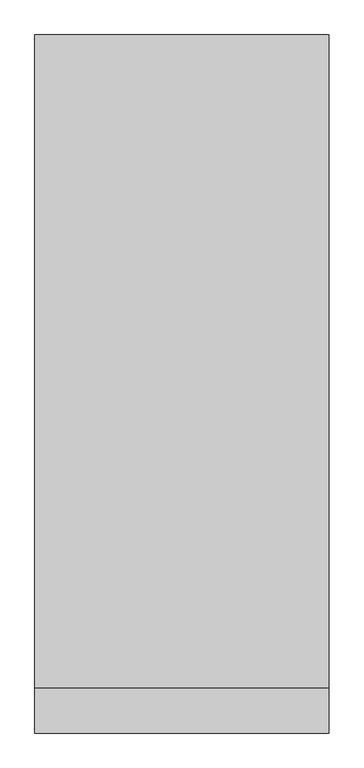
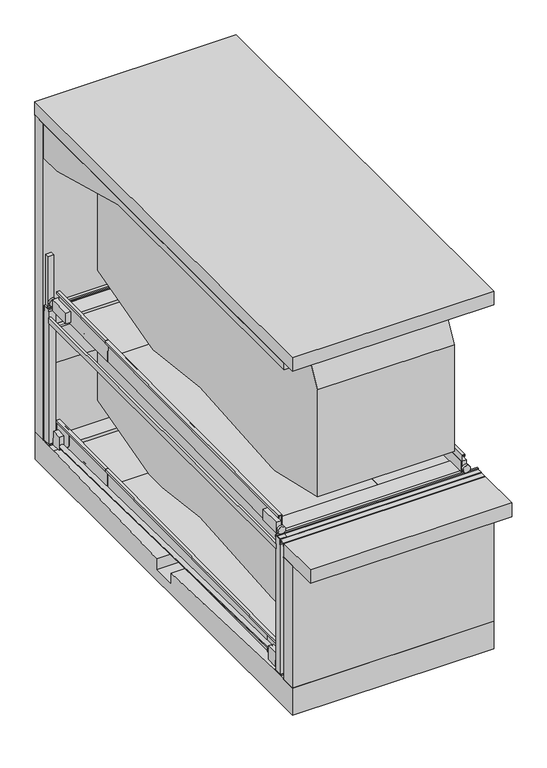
"""IFC4 building model written with IfcOpenShell, lengths in millimetres: proxy geometry, TrendVario_6100 : TrendVario_6100."""

from ifc_helpers import new_model, si_unit, point, frame, frame_2d, origin, place, context, project, spatial, polyline, circle_curve, trimmed, segment, composite_curve, outline, extrude, faceted_brep, source, transform, mapped, element, save
from ifc_brep_helpers import plane_surface, cylinder_surface, advanced_brep


def generic_models_0f1672eb(model_context):
    return source(origin(), model_context, "Body", "SolidModel", [
        extrude(outline(polyline([(0.0, -1500.0), (0.0, 0.0), (1170.0, 0.0), (1170.0, -1500.0), (0.0, -1500.0)])), frame((100.0, 4411.8759587, 12.9805913), z_axis=(0.0, -0.008726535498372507, 0.9999619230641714), x_axis=(0.0, 0.9999619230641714, 0.008726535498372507)), (0.0, 0.0, 1.0), 8.0),
        extrude(outline(polyline([(5343.3866911, 73.1117424), (5581.3776288, 75.1886579), (5581.7615964, 31.1903332), (5578.7617106, 31.1641536), (5578.4039226, 72.1625925), (5346.4127565, 70.1380362), (5346.7705444, 29.1395974), (5343.7706587, 29.1134178), (5343.3866911, 73.1117424)])), frame((100.0, 0.0, 0.0), z_axis=(1.0, 0.0, 0.0), x_axis=(0.0, 1.0, 0.0)), (0.0, 0.0, 1.0), 1500.0),
        extrude(outline(polyline([(320.0, 0.0), (320.0, -43.0), (290.0, -43.0), (290.0, -40.0), (317.0, -40.0), (317.0, -3.0), (0.0, -3.0), (0.0, 52.0), (47.0, 52.0), (47.0, 89.0), (49.9999999, 89.0), (49.9999999, 49.0), (2.9999999, 49.0), (2.9999999, 0.0), (320.0, 0.0)])), frame((100.0, 4412.3122854, -37.0175048), z_axis=(0.0, 0.9999619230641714, 0.008726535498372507), x_axis=(0.0, -0.008726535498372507, 0.9999619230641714)), (0.0, 0.0, 1.0), 1170.0),
        extrude(outline(composite_curve([segment(trimmed(circle_curve(frame_2d((-273.0, 50.2890841)), 6.0), [point((-273.0, 44.2890841))], [point((-273.0, 56.2890841))], False, "CARTESIAN"), True, "CONTINUOUS"), segment(trimmed(circle_curve(frame_2d((-273.0, 50.2890841)), 6.0), [point((-273.0, 56.2890841))], [point((-273.0, 44.2890841))], False, "CARTESIAN"), True, "CONTINUOUS")], self_intersect=False)), frame((0.0, 5774.7632152, 0.0), z_axis=(0.0, 1.0, 0.0), x_axis=(0.0, 0.0, 1.0)), (0.0, 0.0, 1.0), 150.0),
        extrude(outline(composite_curve([segment(trimmed(circle_curve(frame_2d((-273.0, 2650.0)), 6.0), [point((-267.0, 2650.0))], [point((-279.0, 2650.0))], False, "CARTESIAN"), True, "CONTINUOUS"), segment(trimmed(circle_curve(frame_2d((-273.0, 2650.0)), 6.0), [point((-279.0, 2650.0))], [point((-267.0, 2650.0))], False, "CARTESIAN"), True, "CONTINUOUS")], self_intersect=False)), frame((0.0, 5769.5664345, 0.0), z_axis=(0.0, 1.0, 0.0), x_axis=(0.0, 0.0, 1.0)), (0.0, 0.0, 1.0), 150.0),
        extrude(outline(composite_curve([segment(trimmed(circle_curve(frame_2d((-273.0, 2650.0)), 6.0), [point((-267.0, 2650.0))], [point((-279.0, 2650.0))], False, "CARTESIAN"), True, "CONTINUOUS"), segment(trimmed(circle_curve(frame_2d((-273.0, 2650.0)), 6.0), [point((-279.0, 2650.0))], [point((-267.0, 2650.0))], False, "CARTESIAN"), True, "CONTINUOUS")], self_intersect=False)), frame((0.0, -50.0, 0.0), z_axis=(0.0, 1.0, 0.0), x_axis=(0.0, 0.0, 1.0)), (0.0, 0.0, 1.0), 150.0),
        extrude(outline(composite_curve([segment(trimmed(circle_curve(frame_2d((-273.0, 50.0)), 6.0), [point((-273.0, 56.0))], [point((-273.0, 44.0))], False, "CARTESIAN"), True, "CONTINUOUS"), segment(trimmed(circle_curve(frame_2d((-273.0, 50.0)), 6.0), [point((-273.0, 44.0))], [point((-273.0, 56.0))], False, "CARTESIAN"), True, "CONTINUOUS")], self_intersect=False)), frame((0.0, -50.0, 0.0), z_axis=(0.0, 1.0, 0.0), x_axis=(0.0, 0.0, 1.0)), (0.0, 0.0, 1.0), 150.0),
        extrude(outline(composite_curve([segment(trimmed(circle_curve(frame_2d((145.0, 150.0)), 6.0), [point((139.0, 150.0))], [point((151.0, 150.0))], False, "CARTESIAN"), True, "CONTINUOUS"), segment(trimmed(circle_curve(frame_2d((145.0, 150.0)), 6.0), [point((151.0, 150.0))], [point((139.0, 150.0))], False, "CARTESIAN"), True, "CONTINUOUS")], self_intersect=False)), frame((0.0, 0.0, -2150.0), z_axis=(0.0, 0.0, 1.0), x_axis=(1.0, 0.0, 0.0)), (0.0, 0.0, 1.0), 150.0),
        extrude(outline(composite_curve([segment(trimmed(circle_curve(frame_2d((2555.0, 150.0)), 6.0), [point((2549.0, 150.0))], [point((2561.0, 150.0))], False, "CARTESIAN"), True, "CONTINUOUS"), segment(trimmed(circle_curve(frame_2d((2555.0, 150.0)), 6.0), [point((2561.0, 150.0))], [point((2549.0, 150.0))], False, "CARTESIAN"), True, "CONTINUOUS")], self_intersect=False)), frame((0.0, 0.0, -2150.0), z_axis=(0.0, 0.0, 1.0), x_axis=(1.0, 0.0, 0.0)), (0.0, 0.0, 1.0), 150.0),
        extrude(outline(composite_curve([segment(trimmed(circle_curve(frame_2d((2555.0, 5722.5588178)), 6.0), [point((2549.0, 5722.5588178))], [point((2561.0, 5722.5588178))], False, "CARTESIAN"), True, "CONTINUOUS"), segment(trimmed(circle_curve(frame_2d((2555.0, 5722.5588178)), 6.0), [point((2561.0, 5722.5588178))], [point((2549.0, 5722.5588178))], False, "CARTESIAN"), True, "CONTINUOUS")], self_intersect=False)), frame((0.0, 0.0, -2150.0), z_axis=(0.0, 0.0, 1.0), x_axis=(1.0, 0.0, 0.0)), (0.0, 0.0, 1.0), 150.0),
        extrude(outline(polyline([(320.0, 0.0), (3.0, 0.0), (3.0, -49.0), (49.9999999, -49.0), (49.9999999, -89.0), (47.0, -89.0), (47.0, -52.0), (0.0, -52.0), (0.0, 3.0), (317.0, 3.0), (317.0, 40.0), (290.0, 40.0), (290.0, 43.0), (320.0, 43.0), (320.0, 0.0)])), frame((2600.0, 237.7412679, -1960.4094164), z_axis=(0.0, 0.9999619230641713, 0.008726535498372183), x_axis=(0.0, -0.008726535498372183, 0.9999619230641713)), (0.0, 0.0, 1.0), 4178.0),
        extrude(outline(polyline([(1941.867435, 0.0), (1941.867435, -1000.0), (-1962.132565, -1000.0), (-1962.132565, 0.0), (1941.867435, 0.0)])), frame((1600.0, 2473.3523611, -1890.89763), z_axis=(0.0, -0.008726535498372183, 0.9999619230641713), x_axis=(0.0, 0.9999619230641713, 0.008726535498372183)), (0.0, 0.0, 1.0), 8.0),
        extrude(outline(polyline([(0.0, -136.0), (0.0, 0.0), (67.0, 0.0), (67.0, -136.0), (0.0, -136.0)])), frame((20.0, 5591.7992407, -1943.6900531), z_axis=(0.0, -0.008726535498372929, 0.9999619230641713), x_axis=(1.0, 0.0, 0.0)), (0.0, 0.0, 1.0), 195.0),
        extrude(outline(polyline([(5613.3985296, -1668.4910874), (5616.1473883, -1983.4790932), (5481.1525287, -1984.6571755), (5344.9795868, -1850.8403982), (5342.7979529, -1600.8499174), (5582.7888144, -1598.7555489), (5583.3996719, -1668.7528835), (5613.3985296, -1668.4910874)])), frame((87.0, 0.0, 0.0), z_axis=(1.0, 0.0, 0.0), x_axis=(0.0, 1.0, 0.0)), (0.0, 0.0, 1.0), 10.0),
        extrude(outline(polyline([(0.0, -1500.0), (0.0, 0.0), (1170.0, 0.0), (1170.0, -1500.0), (0.0, -1500.0)])), frame((100.0, 4415.1458963, -1873.955505), z_axis=(0.0, -0.008726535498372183, 0.9999619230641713), x_axis=(0.0, 0.9999619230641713, 0.008726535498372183)), (0.0, 0.0, 1.0), 8.0),
        extrude(outline(polyline([(5346.6566288, -1813.8243539), (5584.6475665, -1811.7474385), (5585.031534, -1855.7457631), (5582.0316483, -1855.7719427), (5581.6738603, -1814.7735039), (5349.6826942, -1816.7980601), (5350.0404821, -1857.7964989), (5347.0405963, -1857.8226786), (5346.6566288, -1813.8243539)])), frame((100.0, 0.0, 0.0), z_axis=(1.0, 0.0, 0.0), x_axis=(0.0, 1.0, 0.0)), (0.0, 0.0, 1.0), 1500.0),
        extrude(outline(polyline([(320.0, 0.0), (320.0, -43.0), (290.0, -43.0), (290.0, -40.0), (317.0, -40.0), (317.0, -3.0), (0.0, -3.0), (0.0, 52.0), (47.0, 52.0), (47.0, 89.0), (50.0, 89.0), (50.0, 49.0), (3.0, 49.0), (3.0, 0.0), (320.0, 0.0)])), frame((100.0, 4415.5822231, -1923.9536012), z_axis=(0.0, 0.9999619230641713, 0.008726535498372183), x_axis=(0.0, -0.008726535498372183, 0.9999619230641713)), (0.0, 0.0, 1.0), 1170.0),
        extrude(outline(polyline([(320.0, 0.0), (3.0, 0.0), (3.0, -49.0), (49.9999999, -49.0), (49.9999999, -89.0), (47.0, -89.0), (47.0, -52.0), (0.0, -52.0), (0.0, 3.0), (317.0, 3.0), (317.0, 40.0), (290.0, 40.0), (290.0, 43.0), (320.0, 43.0), (320.0, 0.0)])), frame((2600.0, 232.7875414, -73.2083418), z_axis=(0.0, 0.9999619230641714, 0.008726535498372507), x_axis=(0.0, -0.008726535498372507, 0.9999619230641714)), (0.0, 0.0, 1.0), 4178.0),
        extrude(outline(polyline([(1941.867435, 0.0), (1941.867435, -1000.0), (-1962.132565, -1000.0), (-1962.132565, 0.0), (1941.867435, 0.0)])), frame((1600.0, 2468.3986345, -3.6965555), z_axis=(0.0, -0.008726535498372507, 0.9999619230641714), x_axis=(0.0, 0.9999619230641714, 0.008726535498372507)), (0.0, 0.0, 1.0), 8.0),
        extrude(outline(composite_curve([segment(trimmed(circle_curve(frame_2d((145.0, 5722.5588178)), 6.0), [point((139.0, 5722.5588178))], [point((151.0, 5722.5588178))], False, "CARTESIAN"), True, "CONTINUOUS"), segment(trimmed(circle_curve(frame_2d((145.0, 5722.5588178)), 6.0), [point((151.0, 5722.5588178))], [point((139.0, 5722.5588178))], False, "CARTESIAN"), True, "CONTINUOUS")], self_intersect=False)), frame((0.0, 0.0, -2150.0), z_axis=(0.0, 0.0, 1.0), x_axis=(1.0, 0.0, 0.0)), (0.0, 0.0, 1.0), 150.0),
        extrude(outline(polyline([(5999.9581167, -2000.0), (5999.9581167, -2400.0), (-200.0, -2400.0), (-200.0, -2000.0), (250.0, -2000.0), (2725.0057083, -2086.4291038), (2725.0057083, -2247.5791163), (3075.0057083, -2247.5791163), (3075.0057083, -2086.4272426), (5549.9581167, -2000.0), (5999.9581167, -2000.0)])), frame((0.0, 0.0, 0.0), z_axis=(1.0, 0.0, 0.0), x_axis=(0.0, 1.0, 0.0)), (0.0, 0.0, 1.0), 2799.0),
        extrude(outline(polyline([(0.0, 5671.7632152), (30.0, 5671.7632152), (30.0, 200.0), (0.0, 200.0), (0.0, 5671.7632152)])), frame((0.0, 0.0, -200.0), z_axis=(0.0, 0.0, 1.0), x_axis=(1.0, 0.0, 0.0)), (0.0, 0.0, 1.0), 80.0),
        extrude(outline(polyline([(164.0, 210.0), (164.0, 90.0), (0.0, 90.0), (0.0, 210.0), (164.0, 210.0)])), frame((0.0, 0.0, -2000.0), z_axis=(0.0, 0.0, 1.0), x_axis=(1.0, 0.0, 0.0)), (0.0, 0.0, 1.0), 18.0),
        extrude(outline(polyline([(164.0, 5784.7632152), (164.0, 5661.7632152), (0.0, 5661.7632152), (0.0, 5784.7632152), (164.0, 5784.7632152)])), frame((0.0, 0.0, -2000.0), z_axis=(0.0, 0.0, 1.0), x_axis=(1.0, 0.0, 0.0)), (0.0, 0.0, 1.0), 18.0),
        extrude(outline(polyline([(2536.0, 5779.5664345), (2700.0, 5779.5664345), (2700.0, 5659.5664345), (2536.0, 5659.5664345), (2536.0, 5779.5664345)])), frame((0.0, 0.0, -2000.0), z_axis=(0.0, 0.0, 1.0), x_axis=(1.0, 0.0, 0.0)), (0.0, 0.0, 1.0), 18.0),
        extrude(outline(polyline([(2536.0, 90.0), (2536.0, 210.0), (2700.0, 210.0), (2700.0, 90.0), (2536.0, 90.0)])), frame((0.0, 0.0, -2000.0), z_axis=(0.0, 0.0, 1.0), x_axis=(1.0, 0.0, 0.0)), (0.0, 0.0, 1.0), 18.0),
        extrude(outline(composite_curve([segment(trimmed(circle_curve(frame_2d((-34.8939913, -3.2601795)), 30.0), [point((-64.8939913, -3.2601795))], [point((-4.8939913, -3.2601795))], False, "CARTESIAN"), True, "CONTINUOUS"), segment(trimmed(circle_curve(frame_2d((-34.8939913, -3.2601795)), 30.0), [point((-4.8939913, -3.2601795))], [point((-64.8939913, -3.2601795))], False, "CARTESIAN"), True, "CONTINUOUS")], self_intersect=False)), frame((20.0, 5455.4339411, -1902.4242792), z_axis=(0.0, -0.9997806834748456, 0.02094241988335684), x_axis=(-1.0, 0.0, 0.0)), (0.0, 0.0, 1.0), 5042.7986422),
        extrude(outline(composite_curve([segment(trimmed(circle_curve(frame_2d((39.6709454, 48.2295861)), 30.0), [point((9.6709454, 48.2295861))], [point((69.6709454, 48.2295861))], False, "CARTESIAN"), True, "CONTINUOUS"), segment(trimmed(circle_curve(frame_2d((39.6709454, 48.2295861)), 30.0), [point((69.6709454, 48.2295861))], [point((9.6709454, 48.2295861))], False, "CARTESIAN"), True, "CONTINUOUS")], self_intersect=False)), frame((2603.0, 5455.8267219, -1947.4325068), z_axis=(0.0, -0.9997806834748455, 0.020942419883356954), x_axis=(1.0, 0.0, 0.0)), (0.0, 0.0, 1.0), 5043.1761415),
        faceted_brep([(2670.0, 210.0, -120.0), (2670.0, 210.0, -200.0), (2700.0, 210.0, -200.0), (2700.0, 210.0, -120.0), (2700.0, 5659.5664345, -120.0), (2700.0, 5659.5664345, -200.0), (2673.0, 5659.5664345, -200.0), (2673.0, 5659.5664345, -120.0), (2670.0, 232.7875088, -120.0), (2670.0, 232.7875088, -200.0), (2670.0, 5656.8533035, -120.0), (2670.0, 5635.4173681, -200.0), (2670.0, 254.2234442, -200.0), (2673.0, 232.7875088, -200.0), (2673.0, 254.2234442, -200.0), (2673.0, 5635.4173681, -200.0), (2673.0, 5656.8533035, -120.0), (2673.0, 232.7875088, -120.0)], [[[0, 1, 2, 3]], [[4, 5, 6, 7]], [[1, 0, 8, 9]], [[10, 11, 12, 8]], [[2, 1, 9, 13, 14, 12, 11, 15, 6, 5]], [[3, 2, 5, 4]], [[0, 3, 4, 7, 16, 10, 8]], [[15, 16, 7, 6]], [[16, 15, 11, 10]], [[17, 14, 13]], [[8, 17, 13, 9]], [[17, 8, 12, 14]]]),
        extrude(outline(polyline([(2700.0, 5669.5664345), (2600.0, 5669.5664345), (2600.0, 5769.5664345), (2700.0, 5769.5664345), (2700.0, 5669.5664345)])), frame((0.0, 0.0, -2000.0), z_axis=(0.0, 0.0, 1.0), x_axis=(1.0, 0.0, 0.0)), (0.0, 0.0, 1.0), 2000.0),
        extrude(outline(polyline([(237.7566323, -1940.8501873), (236.1472757, -1756.4361785), (413.7566323, -1756.4361785), (413.7566323, -1939.3142585), (237.7566323, -1940.8501873)])), frame((2613.0, 0.0, 0.0), z_axis=(1.0, 0.0, 0.0), x_axis=(0.0, 1.0, 0.0)), (0.0, 0.0, 1.0), 70.0),
        extrude(outline(polyline([(237.7412679, -1960.4094164), (235.9626972, -1756.6053926), (413.7412679, -1756.6053926), (413.7412679, -1958.8734877), (237.7412679, -1960.4094164)])), frame((20.0, 0.0, 0.0), z_axis=(1.0, 0.0, 0.0), x_axis=(0.0, 1.0, 0.0)), (0.0, 0.0, 1.0), 70.0),
        extrude(outline(polyline([(0.0, -136.0), (0.0, 0.0), (67.0, 0.0), (67.0, -136.0), (0.0, -136.0)])), frame((2610.0, 5591.7992407, -1943.6900531), z_axis=(0.0, -0.008726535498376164, 0.9999619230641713), x_axis=(1.0, 0.0, 0.0)), (0.0, 0.0, 1.0), 195.0),
        extrude(outline(polyline([(2600.0, 200.0), (2700.0, 200.0), (2700.0, 100.0), (2600.0, 100.0), (2600.0, 200.0)])), frame((0.0, 0.0, -2000.0), z_axis=(0.0, 0.0, 1.0), x_axis=(1.0, 0.0, 0.0)), (0.0, 0.0, 1.0), 2000.0),
        extrude(outline(composite_curve([segment(polyline([(5620.0145776, -585.9914336), (5620.0145776, -1335.9999998), (5618.0221903, -1335.9999998), (5618.0221903, -1527.7646518), (4313.3699728, -1877.3451599)]), True, "CONTINUOUS"), segment(trimmed(circle_curve(frame_2d((4247.6299354, -1632.0)), 254.0), [point((4313.3699728, -1877.3451599))], [point((4224.7221662, -1884.9648871))], False, "CARTESIAN"), True, "CONTINUOUS"), segment(polyline([(4224.7221662, -1884.9648871), (3145.3807126, -1751.0), (1424.180165, -1884.6085614)]), True, "CONTINUOUS"), segment(trimmed(circle_curve(frame_2d((1397.6299354, -1632.0)), 254.0), [point((1424.180165, -1884.6085614))], [point((1340.4923675, -1879.4899965))], False, "CARTESIAN"), True, "CONTINUOUS"), segment(polyline([(1340.4923675, -1879.4899965), (320.456461, -1643.9961518), (320.456461, -689.5033287), (622.3673675, -136.0), (4020.0450351, -135.9999998), (5620.0145776, -585.9914336)]), True, "CONTINUOUS")], self_intersect=False)), frame((650.0, 0.0, 0.0), z_axis=(1.0, 0.0, 0.0), x_axis=(0.0, 1.0, 0.0)), (0.0, 0.0, 1.0), 1900.0),
        extrude(outline(polyline([(2799.0, -200.0), (0.0, -200.0), (0.0, 0.0), (2799.0, 0.0), (2799.0, -200.0)])), frame((0.0, 0.0, -2000.0), z_axis=(0.0, 0.0, 1.0), x_axis=(1.0, 0.0, 0.0)), (0.0, 0.0, 1.0), 1800.0),
        faceted_brep([(100.0, 4412.2895056, -1603.966424), (100.0, 4415.0558174, -1920.9543536), (149.0, 4415.0558174, -1920.9543536), (149.0, 4414.6456702, -1873.9561432), (189.0, 4414.6456702, -1873.9561432), (189.0, 4414.6718498, -1876.956029), (152.0, 4414.6718498, -1876.956029), (152.0, 4415.081997, -1923.9542393), (97.0, 4415.081997, -1923.9542393), (97.0, 4412.3156852, -1606.9663097), (60.0, 4412.3156852, -1606.9663097), (60.0, 4412.5513017, -1633.9652817), (57.0, 4412.5513017, -1633.9652817), (57.0, 4412.2895056, -1603.966424), (100.0, 237.741276, -1960.4093395), (100.0, 234.9487847, -1640.4215242), (57.0, 234.9487847, -1640.4215242), (57.0, 235.2105807, -1670.4203818), (60.0, 235.2105807, -1670.4203818), (60.0, 234.9749643, -1643.4214099), (97.0, 234.9749643, -1643.4214099), (97.0, 237.741276, -1960.4093395), (100.0, 337.7374683, -1959.536686), (100.0, 337.7112887, -1956.5368002), (149.0, 337.7112887, -1956.5368002), (149.0, 337.3011416, -1909.5385898), (189.0, 337.3011416, -1909.5385898), (189.0, 337.3273212, -1912.5384756), (152.0, 337.3273212, -1912.5384756), (152.0, 337.7374683, -1959.536686)], [[[0, 1, 2, 3, 4, 5, 6, 7, 8, 9, 10, 11, 12, 13]], [[14, 15, 16, 17, 18, 19, 20, 21]], [[1, 0, 15, 14, 22, 23]], [[2, 1, 23, 24]], [[3, 2, 24, 25]], [[4, 3, 25, 26]], [[5, 4, 26, 27]], [[6, 5, 27, 28]], [[7, 6, 28, 29]], [[8, 7, 29, 22, 14, 21]], [[9, 8, 21, 20]], [[10, 9, 20, 19]], [[11, 10, 19, 18]], [[12, 11, 18, 17]], [[13, 12, 17, 16]], [[0, 13, 16, 15]], [[23, 22, 29, 28, 27, 26, 25, 24]]]),
        extrude(outline(polyline([(556.8174373, -1957.6248809), (237.7412679, -1960.4094164), (235.9626972, -1756.6053926), (322.913076, -1669.6550138), (556.8174373, -1667.6137613), (556.8174373, -1957.6248809)])), frame((90.0, 0.0, 0.0), z_axis=(1.0, 0.0, 0.0), x_axis=(0.0, 1.0, 0.0)), (0.0, 0.0, 1.0), 10.0),
        extrude(outline(polyline([(342.6444987, -1649.9235911), (556.8174373, -1648.0545322), (556.8174373, -1938.0656517), (237.7412679, -1940.8501873), (236.1319113, -1756.4361785), (342.6444987, -1649.9235911)])), frame((2603.0, 0.0, 0.0), z_axis=(1.0, 0.0, 0.0), x_axis=(0.0, 1.0, 0.0)), (0.0, 0.0, 1.0), 10.0),
        extrude(outline(polyline([(5582.7713613, -1596.755625), (5583.3996719, -1668.7528835), (5613.3985296, -1668.4910874), (5616.1473883, -1983.4790932), (5481.1525287, -1984.6571755), (5344.9795868, -1850.8403982), (5342.7804998, -1598.8499935), (5582.7713613, -1596.755625)])), frame((2600.0, 0.0, 0.0), z_axis=(1.0, 0.0, 0.0), x_axis=(0.0, 1.0, 0.0)), (0.0, 0.0, 1.0), 10.0),
        extrude(outline(polyline([(2600.0, 511.2945081), (2600.0, 241.2945081), (100.0, 241.2945081), (100.0, 511.2945081), (2600.0, 511.2945081)])), frame((0.0, 0.0, -1888.4610204), z_axis=(0.0, 0.0, 1.0), x_axis=(1.0, 0.0, 0.0)), (0.0, 0.0, 1.0), 30.0),
        extrude(outline(polyline([(319.9999232, -43.0), (2.9999232, -43.0), (2.9999232, -92.0), (49.9999231, -92.0), (49.9999231, -132.0), (46.9999232, -132.0), (46.9999232, -95.0), (-7.68e-05, -95.0), (-7.68e-05, -40.0), (316.9999232, -40.0), (316.9999232, -3.0), (289.9999232, -3.0), (289.9999232, 0.0), (319.9999232, 0.0), (319.9999232, -43.0)])), frame((2643.0, 4415.5821906, -1923.9498742), z_axis=(0.0, 0.9999619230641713, 0.008726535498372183), x_axis=(0.0, -0.008726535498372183, 0.9999619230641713)), (0.0, 0.0, 1.0), 1183.1966017),
        extrude(outline(polyline([(100.4126792, 0.0), (100.4126792, -1170.5002127), (-899.5873208, -1170.5002127), (-899.5873208, 0.0), (100.4126792, 0.0)])), frame((2499.5873208, 5585.1013463, -1863.7454585), z_axis=(0.0, -0.008726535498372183, 0.9999619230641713), x_axis=(1.0, 0.0, 0.0)), (0.0, 0.0, 1.0), 8.0),
        extrude(outline(polyline([(5587.3833555, -1811.7198364), (5587.767323, -1855.718161), (5584.7674373, -1855.7443406), (5584.4096493, -1814.7459018), (5352.4184831, -1816.770458), (5352.7762711, -1857.7688968), (5349.7763853, -1857.7950764), (5349.3924178, -1813.7967518), (5587.3833555, -1811.7198364)])), frame((1600.0, 0.0, 0.0), z_axis=(1.0, 0.0, 0.0), x_axis=(0.0, 1.0, 0.0)), (0.0, 0.0, 1.0), 1000.0),
        extrude(outline(polyline([(2038.9337722, 0.0), (2038.9337722, -1500.0), (-1864.3763713, -1500.0), (-1864.3763713, 0.0), (2038.9337722, 0.0)])), frame((1600.0, 2550.3403211, -1890.2294167), z_axis=(0.0, -0.008726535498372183, 0.9999619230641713), x_axis=(0.0, -0.9999619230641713, -0.008726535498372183)), (0.0, 0.0, 1.0), 8.0),
        extrude(outline(polyline([(555.3027268, 0.3516465), (235.3027268, -2.4409511), (235.3027268, 157.5651414), (555.3027268, 160.3577391), (555.3027268, 0.3516465)])), frame((30.0, 0.0, 0.0), z_axis=(1.0, 0.0, 0.0), x_axis=(0.0, 1.0, 0.0)), (0.0, 0.0, 1.0), 70.0),
        extrude(outline(polyline([(5627.0221903, 0.3516465), (5307.0221903, -2.4409511), (5307.0221903, 157.5651414), (5627.0221903, 160.3577391), (5627.0221903, 0.3516465)])), frame((30.0, 0.0, 0.0), z_axis=(1.0, 0.0, 0.0), x_axis=(0.0, 1.0, 0.0)), (0.0, 0.0, 1.0), 70.0),
        extrude(outline(composite_curve([segment(trimmed(circle_curve(frame_2d((73.3516465, 66.0)), 50.0), [point((73.3516465, 16.0))], [point((73.3516465, 116.0))], False, "CARTESIAN"), True, "CONTINUOUS"), segment(trimmed(circle_curve(frame_2d((73.3516465, 66.0)), 50.0), [point((73.3516465, 116.0))], [point((73.3516465, 16.0))], False, "CARTESIAN"), True, "CONTINUOUS")], self_intersect=False)), frame((0.0, 165.3027268, 0.0), z_axis=(0.0, 1.0, 0.0), x_axis=(0.0, 0.0, 1.0)), (0.0, 0.0, 1.0), 35.0),
        extrude(outline(composite_curve([segment(trimmed(circle_curve(frame_2d((73.3516465, 66.0)), 15.0), [point((73.3516465, 51.0))], [point((73.3516465, 81.0))], False, "CARTESIAN"), True, "CONTINUOUS"), segment(trimmed(circle_curve(frame_2d((73.3516465, 66.0)), 15.0), [point((73.3516465, 81.0))], [point((73.3516465, 51.0))], False, "CARTESIAN"), True, "CONTINUOUS")], self_intersect=False)), frame((0.0, 200.3027268, 0.0), z_axis=(0.0, 1.0, 0.0), x_axis=(0.0, 0.0, 1.0)), (0.0, 0.0, 1.0), 35.0),
        extrude(outline(composite_curve([segment(trimmed(circle_curve(frame_2d((73.3516465, 66.0)), 50.0), [point((73.3516465, 16.0))], [point((73.3516465, 116.0))], False, "CARTESIAN"), True, "CONTINUOUS"), segment(trimmed(circle_curve(frame_2d((73.3516465, 66.0)), 50.0), [point((73.3516465, 116.0))], [point((73.3516465, 16.0))], False, "CARTESIAN"), True, "CONTINUOUS")], self_intersect=False)), frame((0.0, 5672.0221903, 0.0), z_axis=(0.0, 1.0, 0.0), x_axis=(0.0, 0.0, 1.0)), (0.0, 0.0, 1.0), 35.0),
        extrude(outline(composite_curve([segment(trimmed(circle_curve(frame_2d((73.3516465, 66.0)), 15.0), [point((73.3516465, 51.0))], [point((73.3516465, 81.0))], False, "CARTESIAN"), True, "CONTINUOUS"), segment(trimmed(circle_curve(frame_2d((73.3516465, 66.0)), 15.0), [point((73.3516465, 81.0))], [point((73.3516465, 51.0))], False, "CARTESIAN"), True, "CONTINUOUS")], self_intersect=False)), frame((0.0, 5627.0221903, 0.0), z_axis=(0.0, 1.0, 0.0), x_axis=(0.0, 0.0, 1.0)), (0.0, 0.0, 1.0), 45.0),
        extrude(outline(polyline([(320.0, 0.0), (320.0, -43.0), (290.0, -43.0), (290.0, -40.0), (317.0, -40.0), (317.0, -3.0), (0.0, -3.0), (0.0, 52.0), (47.0, 52.0), (47.0, 89.0), (50.0, 89.0), (50.0, 49.0), (3.0, 49.0), (3.0, 0.0), (320.0, 0.0)])), frame((100.0, 232.7875088, -73.2046149), z_axis=(0.0, 0.9999619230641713, 0.008726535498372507), x_axis=(0.0, -0.008726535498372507, 0.9999619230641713)), (0.0, 0.0, 1.0), 4177.4997873),
        extrude(outline(polyline([(555.3027268, 0.3516465), (235.3027268, -2.4409511), (235.3027268, 157.5651414), (555.3027268, 160.3577391), (555.3027268, 0.3516465)])), frame((2600.0, 0.0, 0.0), z_axis=(1.0, 0.0, 0.0), x_axis=(0.0, 1.0, 0.0)), (0.0, 0.0, 1.0), 70.0),
        extrude(outline(composite_curve([segment(trimmed(circle_curve(frame_2d((73.3516465, 2635.0)), 50.0), [point((73.3516465, 2685.0))], [point((73.3516465, 2585.0))], False, "CARTESIAN"), True, "CONTINUOUS"), segment(trimmed(circle_curve(frame_2d((73.3516465, 2635.0)), 50.0), [point((73.3516465, 2585.0))], [point((73.3516465, 2685.0))], False, "CARTESIAN"), True, "CONTINUOUS")], self_intersect=False)), frame((0.0, 165.3027268, 0.0), z_axis=(0.0, 1.0, 0.0), x_axis=(0.0, 0.0, 1.0)), (0.0, 0.0, 1.0), 35.0),
        extrude(outline(composite_curve([segment(trimmed(circle_curve(frame_2d((73.3516465, 2635.0)), 15.0), [point((73.3516465, 2650.0))], [point((73.3516465, 2620.0))], False, "CARTESIAN"), True, "CONTINUOUS"), segment(trimmed(circle_curve(frame_2d((73.3516465, 2635.0)), 15.0), [point((73.3516465, 2620.0))], [point((73.3516465, 2650.0))], False, "CARTESIAN"), True, "CONTINUOUS")], self_intersect=False)), frame((0.0, 200.3027268, 0.0), z_axis=(0.0, 1.0, 0.0), x_axis=(0.0, 0.0, 1.0)), (0.0, 0.0, 1.0), 35.0),
        extrude(outline(polyline([(0.0, 5677.3612215), (0.0, 5702.3612215), (2799.0, 5702.3612215), (2799.0, 5677.3612215), (0.0, 5677.3612215)])), frame((0.0, 0.0, 8.0), z_axis=(0.0, 0.0, 1.0), x_axis=(1.0, 0.0, 0.0)), (0.0, 0.0, 1.0), 15.0),
        extrude(outline(polyline([(5778.1588219, 0.0), (5778.1588219, -80.0), (5775.1766811, -80.0), (5775.1766811, -3.0), (5669.5588219, -3.0), (5669.5588219, -30.0), (5666.5588219, -30.0), (5666.5588219, 0.0), (5778.1588219, 0.0)])), frame((0.0, 0.0, 0.0), z_axis=(1.0, 0.0, 0.0), x_axis=(0.0, 1.0, 0.0)), (0.0, 0.0, 1.0), 2799.0),
        extrude(outline(composite_curve([segment(trimmed(circle_curve(frame_2d((73.3516465, 2635.0)), 50.0), [point((73.3516465, 2685.0))], [point((73.3516465, 2585.0))], False, "CARTESIAN"), True, "CONTINUOUS"), segment(trimmed(circle_curve(frame_2d((73.3516465, 2635.0)), 50.0), [point((73.3516465, 2585.0))], [point((73.3516465, 2685.0))], False, "CARTESIAN"), True, "CONTINUOUS")], self_intersect=False)), frame((0.0, 5672.0221903, 0.0), z_axis=(0.0, 1.0, 0.0), x_axis=(0.0, 0.0, 1.0)), (0.0, 0.0, 1.0), 35.0),
        extrude(outline(composite_curve([segment(trimmed(circle_curve(frame_2d((73.3516465, 2635.0)), 15.0), [point((73.3516465, 2650.0))], [point((73.3516465, 2620.0))], False, "CARTESIAN"), True, "CONTINUOUS"), segment(trimmed(circle_curve(frame_2d((73.3516465, 2635.0)), 15.0), [point((73.3516465, 2620.0))], [point((73.3516465, 2650.0))], False, "CARTESIAN"), True, "CONTINUOUS")], self_intersect=False)), frame((0.0, 5627.0221903, 0.0), z_axis=(0.0, 1.0, 0.0), x_axis=(0.0, 0.0, 1.0)), (0.0, 0.0, 1.0), 45.0),
        extrude(outline(polyline([(5627.0221903, 0.3516465), (5307.0221903, -2.4409511), (5307.0221903, 157.5651414), (5627.0221903, 160.3577391), (5627.0221903, 0.3516465)])), frame((2600.0, 0.0, 0.0), z_axis=(1.0, 0.0, 0.0), x_axis=(0.0, 1.0, 0.0)), (0.0, 0.0, 1.0), 70.0),
        extrude(outline(polyline([(506.3333687, 1.7621074), (506.6824301, -38.2363695), (503.6825444, -38.2625491), (503.3596625, -1.263958), (261.7372106, -3.3725652), (105.9840281, -46.5667455), (112.3977491, -69.6938764), (133.5976191, -63.8146321), (134.3993342, -66.7055235), (110.3085729, -73.3864829), (102.2914216, -44.4775693), (261.3160886, -0.376126), (506.3333687, 1.7621074)])), frame((100.0, 0.0, 0.0), z_axis=(1.0, 0.0, 0.0), x_axis=(0.0, 1.0, 0.0)), (0.0, 0.0, 1.0), 2500.0),
        extrude(outline(polyline([(319.9719043, 0.0), (2.9719044, 0.0), (2.9719044, -49.0), (49.9719044, -49.0), (49.9719044, -89.0), (46.9719043, -89.0), (46.9719043, -52.0), (-0.0280957, -52.0), (-0.0280957, 3.0), (316.9719043, 3.0), (316.9719043, 40.0), (289.9719043, 40.0), (289.9719043, 43.0), (319.9719043, 43.0), (319.9719043, 0.0)])), frame((2600.0, 4410.6284234, -36.7451495), z_axis=(0.0, 0.9999619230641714, 0.008726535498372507), x_axis=(0.0, -0.008726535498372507, 0.9999619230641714)), (0.0, 0.0, 1.0), 1171.6814212),
        extrude(outline(polyline([(100.4126792, 0.0), (100.4126792, -1167.2107697), (-899.5873208, -1167.2107697), (-899.5873208, 0.0), (100.4126792, 0.0)])), frame((2499.5873208, 5576.8582614, 23.4305607), z_axis=(0.0, -0.008726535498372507, 0.9999619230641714), x_axis=(1.0, 0.0, 0.0)), (0.0, 0.0, 1.0), 8.0),
        extrude(outline(polyline([(5579.1402706, 75.4561828), (5579.5242381, 31.4578582), (5576.5243524, 31.4316786), (5576.1665644, 72.4301175), (5344.1753983, 70.4055612), (5344.5331862, 29.4071224), (5341.5333004, 29.3809428), (5341.1493329, 73.3792674), (5579.1402706, 75.4561828)])), frame((1600.0, 0.0, 0.0), z_axis=(1.0, 0.0, 0.0), x_axis=(0.0, 1.0, 0.0)), (0.0, 0.0, 1.0), 1000.0),
        extrude(outline(polyline([(2038.9337722, 0.0), (2038.9337722, -1500.0), (-1864.3763713, -1500.0), (-1864.3763713, 0.0), (2038.9337722, 0.0)])), frame((1600.0, 2545.3865539, -3.0246921), z_axis=(0.0, -0.008726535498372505, 0.9999619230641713), x_axis=(0.0, -0.9999619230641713, -0.008726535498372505)), (0.0, 0.0, 1.0), 8.0),
        extrude(outline(polyline([(0.0, -630.5625149), (0.0, 0.0), (2799.0, 0.0), (2799.0, -630.5625149), (0.0, -630.5625149)])), frame((0.0, 0.0, -200.0), z_axis=(0.0, 0.0, 1.0), x_axis=(1.0, 0.0, 0.0)), (0.0, 0.0, 1.0), 200.0),
        faceted_brep([(100.0, 200.0, 8.0), (0.0, 200.0, 8.0), (0.0, 100.0, 8.0), (100.0, 100.0, 8.0), (100.0, 200.0, -2000.0), (100.0, 100.0, -2000.0), (0.0, 100.0, -2000.0), (0.0, 200.0, -2000.0), (0.0, 100.0, -1.0), (0.0, 100.0, 0.0), (100.0, 100.0, -1.0), (100.0, 100.0, 0.0)], [[[0, 1, 2, 3]], [[4, 5, 6, 7]], [[1, 0, 4, 7]], [[2, 1, 7, 6, 8, 9]], [[3, 2, 9, 8, 6, 5, 10, 11]], [[0, 3, 11, 10, 5, 4]]]),
        faceted_brep([(2799.0, 5467.6439919, 2151.0), (2799.0, 3999.9276592, 2551.0062257), (0.0, 3999.9505029, 2551.0), (0.0, 5467.6439919, 2151.0), (2799.0, 5799.9276592, 2151.0), (2799.0, 5799.9276592, 2651.0), (2799.0, 0.0, 2651.0), (2799.0, 0.0, 2551.0), (0.0, 5799.9276592, 2651.0), (0.0, 5799.9276592, 2151.0), (0.0, 0.0, 2551.0), (0.0, 0.0, 2651.0)], [[[0, 1, 2, 3]], [[4, 5, 6, 7, 1, 0]], [[8, 9, 3, 2, 10, 11]], [[5, 4, 9, 8]], [[6, 5, 8, 11]], [[9, 4, 0, 3]], [[7, 10, 2, 1]], [[7, 6, 11, 10]]]),
        faceted_brep([(97.0, 5714.7632152, -1.0), (97.0, 5771.7632152, -1.0), (100.0, 5771.7632152, -1.0), (100.0, 5711.7632152, -1.0), (22.0, 5711.7632152, -1.0), (22.0, 5714.7632152, -1.0), (100.0, 5771.7632152, 0.0), (97.0, 5771.7632152, 0.0), (97.0, 5714.7632152, 0.0), (22.0, 5714.7632152, 0.0), (22.0, 5711.7632152, 0.0), (100.0, 5711.7632152, 0.0), (97.0, 5714.7632152, 0.0), (97.0, 5774.7632152, 740.0), (22.0, 5774.7632152, 740.0), (22.0, 5714.7632152, 740.0), (97.0, 5714.7632152, 740.0), (22.0, 5774.7632152, 0.0), (97.0, 5774.7632152, 0.0), (22.0, 5771.7632152, 0.0)], [[[0, 1, 2, 3, 4, 5]], [[6, 7, 8, 9, 10, 11]], [[3, 2, 6, 11]], [[1, 0, 12, 7]], [[13, 14, 15, 16]], [[17, 18, 7, 12, 9, 19]], [[13, 16, 8, 7, 18]], [[16, 15, 9, 8]], [[15, 14, 17, 19, 9]], [[14, 13, 18, 17]], [[2, 1, 7, 6]], [[5, 9, 12, 0]], [[5, 4, 10, 9]], [[4, 3, 11, 10]]]),
        faceted_brep([(100.0, 5671.7632152, -3.0), (100.0, 5774.7632152, -3.0), (0.0, 5774.7632152, -3.0), (0.0, 5671.7632152, -3.0), (100.0, 5671.7632152, -2000.0), (0.0, 5671.7632152, -2000.0), (0.0, 5774.7632152, -2000.0), (100.0, 5774.7632152, -2000.0)], [[[0, 1, 2, 3]], [[4, 5, 6, 7]], [[1, 0, 4, 7]], [[2, 1, 7, 6]], [[3, 2, 6, 5]], [[0, 3, 5, 4]]]),
        advanced_brep(
        [(650.0, 5620.0145776, 382.7692068), (650.0, 4313.3699728, 32.6548401), (650.0, 4224.7221662, 25.0351129), (650.0, 3145.3807126, 159.0), (650.0, 1424.180165, 25.3914386), (650.0, 1340.4923675, 30.5100035), (650.0, 320.456461, 266.0038482), (650.0, 320.456461, 1835.4966713), (650.0, 649.6400948, 2439.0), (650.0, 3664.4894819, 2439.0000002), (650.0, 5620.0145794, 1889.0085665), (2550.0, 320.456461, 266.0038482), (2550.0, 1340.4923675, 30.5100035), (2550.0, 1424.180165, 25.3914386), (2550.0, 3145.3807126, 159.0), (2550.0, 4224.7221662, 25.0351129), (2550.0, 4313.3699728, 32.6548401), (2550.0, 5620.0145776, 382.7692068), (2550.0, 5620.0145794, 1889.0085665), (2550.0, 3664.4894819, 2439.0000002), (2550.0, 649.6400948, 2439.0), (2550.0, 320.456461, 1835.4966713)],
        [
            (0, 1),
            (1, 2, circle_curve(frame((650.0, 4247.6299354, 278.0), z_axis=(-1.0, 0.0, 0.0), x_axis=(0.0, 1.0, 0.0)), 254.0)),
            (2, 3),
            (3, 4),
            (4, 5, circle_curve(frame((650.0, 1397.6299354, 278.0), z_axis=(-1.0, 0.0, 0.0), x_axis=(0.0, 1.0, 0.0)), 254.0)),
            (5, 6),
            (6, 7),
            (7, 8),
            (8, 9),
            (9, 10),
            (10, 0),
            (11, 12),
            (12, 13, circle_curve(frame((2550.0, 1397.6299354, 278.0), z_axis=(1.0, 0.0, 0.0), x_axis=(0.0, 1.0, 0.0)), 254.0)),
            (13, 14),
            (14, 15),
            (15, 16, circle_curve(frame((2550.0, 4247.6299354, 278.0), z_axis=(1.0, 0.0, 0.0), x_axis=(0.0, 1.0, 0.0)), 254.0)),
            (16, 17),
            (17, 18),
            (18, 19),
            (19, 20),
            (20, 21),
            (21, 11),
            (10, 18),
            (17, 0),
            (16, 1),
            (15, 2),
            (14, 3),
            (13, 4),
            (12, 5),
            (11, 6),
            (21, 7),
            (19, 9),
            (8, 20),
        ],
        [
            plane_surface(frame((650.0, 220.4923675, 0.0), z_axis=(-1.0, 0.0, 0.0), x_axis=(0.0, 0.0, 1.0))),
            plane_surface(frame((2550.0, 220.4923675, 0.0), z_axis=(1.0, 0.0, 0.0), x_axis=(0.0, 0.0, 1.0))),
            plane_surface(frame((650.0, 5620.0145776, 933.3953459), z_axis=(0.0, 1.0, 0.0), x_axis=(1.0, 0.0, 0.0))),
            plane_surface(frame((650.0, 5620.0145776, 382.7692068), z_axis=(0.0, 0.25881904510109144, -0.9659258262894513), x_axis=(1.0, 0.0, 0.0))),
            cylinder_surface(frame((650.0, 4247.6299354, 278.0), z_axis=(-1.0, 0.0, 0.0), x_axis=(0.0, 1.0, 0.0)), 254.0),
            plane_surface(frame((650.0, 4224.7221662, 25.0351129), z_axis=(0.0, -0.12317213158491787, -0.992385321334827), x_axis=(1.0, 0.0, 0.0))),
            plane_surface(frame((650.0, 3145.3807126, 159.0), z_axis=(0.0, 0.07739239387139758, -0.9970007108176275), x_axis=(1.0, 0.0, 0.0))),
            cylinder_surface(frame((650.0, 1397.6299354, 278.0), z_axis=(-1.0, 0.0, 0.0), x_axis=(0.0, 1.0, 0.0)), 254.0),
            plane_surface(frame((650.0, 1340.4923675, 30.5100035), z_axis=(0.0, -0.22495105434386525, -0.9743700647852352), x_axis=(1.0, 0.0, 0.0))),
            plane_surface(frame((650.0, 320.456461, 266.0038482), z_axis=(0.0, -1.0, 0.0), x_axis=(1.0, 0.0, 0.0))),
            plane_surface(frame((650.0, 1176.8709411, 2439.0000002), z_axis=(0.0, 0.0, 1.0), x_axis=(1.0, 0.0, 0.0))),
            plane_surface(frame((650.0, 3664.4894819, 2439.0000002), z_axis=(0.0, 0.27074557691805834, 0.9626509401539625), x_axis=(1.0, 0.0, 0.0))),
            plane_surface(frame((650.0, 320.456461, 1835.4966713), z_axis=(0.0, -0.8778955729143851, 0.478852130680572), x_axis=(1.0, 0.0, 0.0))),
        ],
        [
            (0, [[1, 2, 3, 4, 5, 6, 7, 8, 9, 10, 11]]),
            (1, [[12, 13, 14, 15, 16, 17, 18, 19, 20, 21, 22]]),
            (2, [[-11, 23, -18, 24]]),
            (3, [[-1, -24, -17, 25]]),
            (4, [[-2, -25, -16, 26]]),
            (5, [[-3, -26, -15, 27]]),
            (6, [[-4, -27, -14, 28]]),
            (7, [[-5, -28, -13, 29]]),
            (8, [[-6, -29, -12, 30]]),
            (9, [[-7, -30, -22, 31]]),
            (10, [[32, -9, 33, -20]]),
            (11, [[-10, -32, -19, -23]]),
            (12, [[-8, -31, -21, -33]]),
        ],
    ),
        extrude(outline(polyline([(700.0, 5769.5664345), (700.0, 5684.5664345), (100.0, 5684.5664345), (100.0, 5769.5664345), (700.0, 5769.5664345)])), frame((0.0, 0.0, -827.0), z_axis=(0.0, 0.0, 1.0), x_axis=(1.0, 0.0, 0.0)), (0.0, 0.0, 1.0), 500.0),
        extrude(outline(polyline([(2600.0, 5774.7632152), (2600.0, 5721.7632152), (97.0, 5721.7632152), (97.0, 5774.7632152), (2600.0, 5774.7632152)])), frame((0.0, 0.0, -352.0), z_axis=(0.0, 0.0, 1.0), x_axis=(1.0, 0.0, 0.0)), (0.0, 0.0, 1.0), 25.0),
        extrude(outline(polyline([(0.0, 169.9031048), (0.0, 194.9031048), (2799.0, 194.9031048), (2799.0, 169.9031048), (0.0, 169.9031048)])), frame((0.0, 0.0, 7.5), z_axis=(0.0, 0.0, 1.0), x_axis=(1.0, 0.0, 0.0)), (0.0, 0.0, 1.0), 15.0),
        extrude(outline(polyline([(100.0, 0.0), (100.0, -73.0), (97.0, -73.0), (97.0, 7.0), (203.0, 7.0), (203.0, -23.0), (200.0, -23.0), (200.0, 0.0), (100.0, 0.0)])), frame((0.0, 0.0, 0.0), z_axis=(1.0, 0.0, 0.0), x_axis=(0.0, 1.0, 0.0)), (0.0, 0.0, 1.0), 2799.0),
        extrude(outline(polyline([(96.5, 0.0), (96.5, -48.0), (93.5, -48.0), (93.5, -3.0), (13.0, -3.0), (13.0, -48.0), (10.0, -48.0), (10.0, 0.0), (96.5, 0.0)])), frame((0.0, 0.0, 0.0), z_axis=(1.0, 0.0, 0.0), x_axis=(0.0, 1.0, 0.0)), (0.0, 0.0, 1.0), 2799.0),
        extrude(outline(polyline([(2799.0, 5799.9276592), (0.0, 5799.9276592), (0.0, 5999.9581167), (2799.0, 5999.9581167), (2799.0, 5799.9276592)])), frame((0.0, 0.0, -2000.0), z_axis=(0.0, 0.0, 1.0), x_axis=(1.0, 0.0, 0.0)), (0.0, 0.0, 1.0), 4651.0),
        extrude(outline(polyline([(2799.0, -200.0), (0.0, -200.0), (0.0, 6002.7632152), (2799.0, 6002.7632152), (2799.0, -200.0)])), frame((0.0, 0.0, 2651.0), z_axis=(0.0, 0.0, 1.0), x_axis=(1.0, 0.0, 0.0)), (0.0, 0.0, 1.0), 200.0),
    ])


if __name__ == "__main__":
    model = new_model("IFC4")
    model_context = context("Model", 3, world=origin())
    ifc_project = project(units=[si_unit("LENGTHUNIT", "METRE", prefix="MILLI")], contexts=[model_context])
    site = spatial("IfcSite", under=ifc_project)
    building = spatial("IfcBuilding", under=site)
    placement = place(None, origin())
    generic_models_shape = generic_models_0f1672eb(model_context)
    element("IfcBuildingElementProxy", 1, Name="TrendVario_6100 : TrendVario_6100", ObjectType="TrendVario_6100 : TrendVario_6100", at=placement, inside=building, context=model_context, shape_type="MappedRepresentation", body=[
        mapped(generic_models_shape, transform((0.0, 0.0, 0.0), x_axis=(1.0, 0.0, 0.0), y_axis=(0.0, 1.0, 0.0), z_axis=(0.0, 0.0, 1.0))),
    ])
    save(model, "model.ifc")
